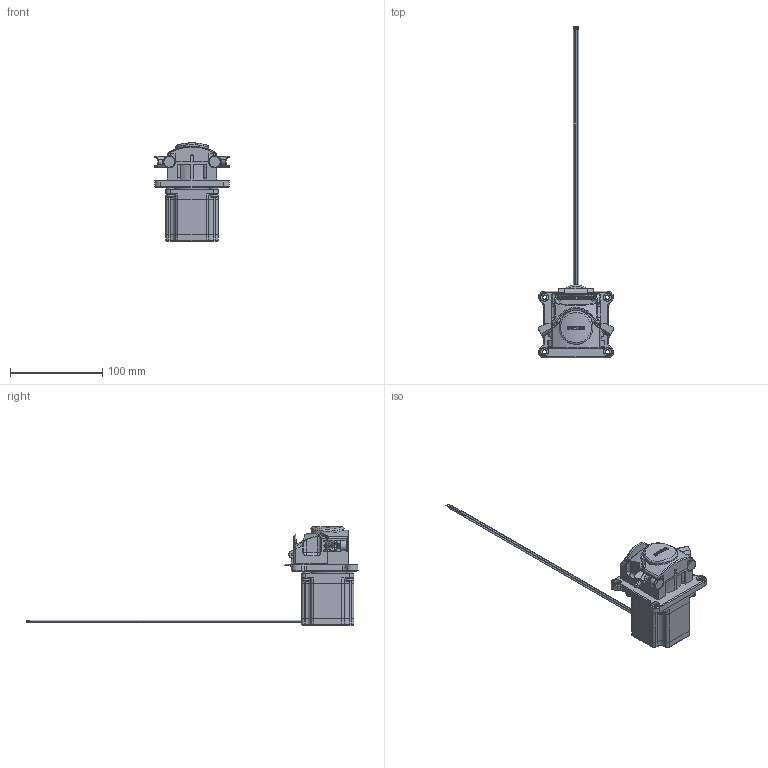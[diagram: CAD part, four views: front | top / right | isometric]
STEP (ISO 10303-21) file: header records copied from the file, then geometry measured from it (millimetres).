
FILE_DESCRIPTION (( 'STEP AP214' ), '1' );
FILE_NAME ('SOLID_15KS+_NEMA23.STEP', '2025-03-27T10:00:22', ( '' ), ( '' ), 'SwSTEP 2.0', 'SolidWorks 2021', '' );
FILE_SCHEMA (( 'AUTOMOTIVE_DESIGN' ));
Length unit declared in the file: millimetre
Products named in the file (1): SOLID_15KS+_NEMA23
Bounding box: 81.81 x 358.98 x 106.18 mm (x, y, z)
Volume: 147953.5 mm3; surface area: 84824.7 mm2
Topology: 6 solids, 21 shells, 2904 faces, 8059 edges, 5227 vertices
Faces by surface type: plane 1696, bspline 392, cylinder 365, cone 321, torus 86, sphere 44
Full cylindrical faces by diameter (mm): 0.66 x4, 1.65 x4, 2.5 x8, 2.6 x2, 2.98 x2, 3 x1, 3.1 x1, 3.7 x2, 4 x6, 4.2 x4, 4.5 x2, 4.8 x2, 5 x12, 5.2 x2, 7 x2, 8 x4, 31 x1, 38.1 x2
Entity records: 148390 total; most frequent: CARTESIAN_POINT 47392, ORIENTED_EDGE 15786, DIRECTION 12466, EDGE_CURVE 7893, VERTEX_POINT 5174, VECTOR 4512, LINE 4512, AXIS2_PLACEMENT_3D 3977
